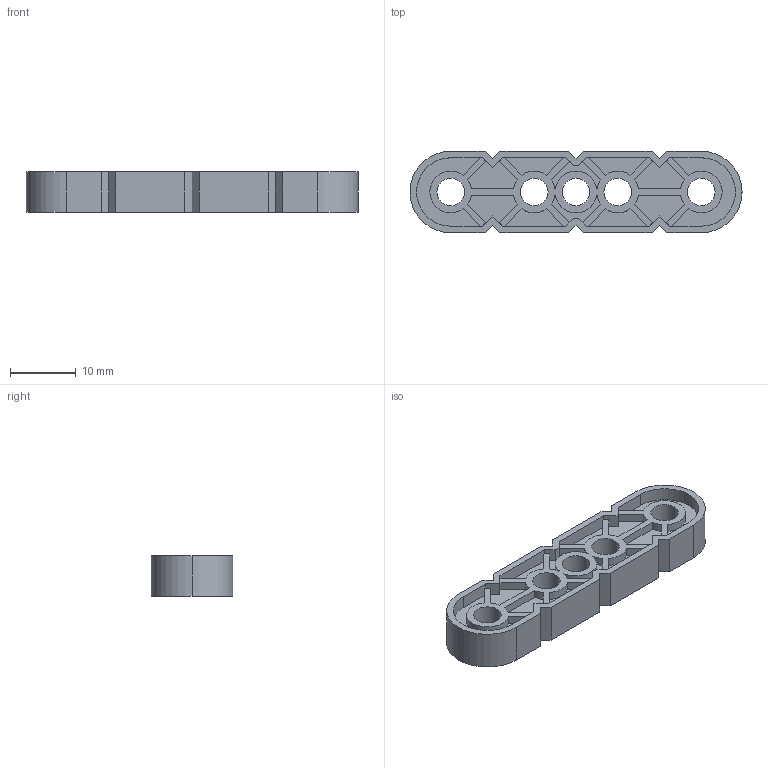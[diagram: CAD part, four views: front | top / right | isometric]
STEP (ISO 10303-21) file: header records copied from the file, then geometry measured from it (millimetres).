
FILE_DESCRIPTION (( 'STEP AP214' ), '1' );
FILE_NAME ('228-2500-003.STEP', '2021-02-18T18:39:22', ( '' ), ( '' ), 'SwSTEP 2.0', 'SolidWorks 2019', '' );
FILE_SCHEMA (( 'AUTOMOTIVE_DESIGN' ));
Length unit declared in the file: millimetre
Products named in the file (1): 228-2500-003
Bounding box: 50.5 x 12.4 x 6.1 mm (x, y, z)
Volume: 1899.6 mm3; surface area: 3020.4 mm2
Topology: 1 solids, 1 shells, 217 faces, 639 edges, 426 vertices
Faces by surface type: plane 156, cylinder 61
Entity records: 7249 total; most frequent: CARTESIAN_POINT 1283, ORIENTED_EDGE 1278, DIRECTION 1197, EDGE_CURVE 639, LINE 517, VECTOR 517, VERTEX_POINT 426, AXIS2_PLACEMENT_3D 340
